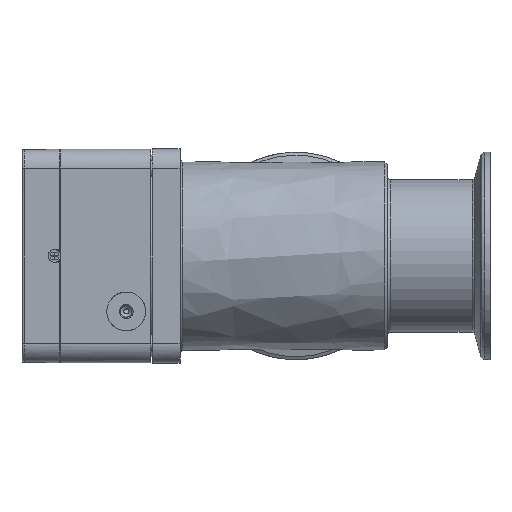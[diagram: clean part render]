
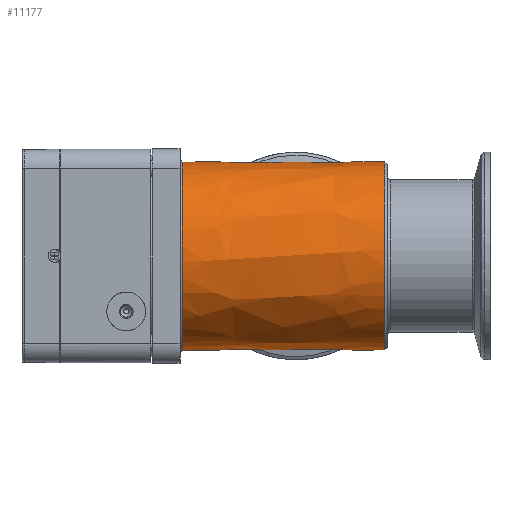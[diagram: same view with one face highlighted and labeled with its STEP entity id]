
A CAD part, left-side view. The second image highlights one B-rep face of the part: STEP entity #11177.
In plain terms, the highlighted free-form (B-spline) face has degree [2, 1] with [7, 2] control points.
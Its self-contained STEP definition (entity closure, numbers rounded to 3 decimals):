
#10488=CARTESIAN_POINT('V33',(38.,33.95,
   0.0));
#10489=VERTEX_POINT('V33',#10488);
#10497=CARTESIAN_POINT('E57',(38.,33.95,
   0.));
#10498=CARTESIAN_POINT('E57',(38.,33.95,
   58.803));
#10499=CARTESIAN_POINT('E57',(38.,-16.975,
   29.402));
#10500=CARTESIAN_POINT('E57',(38.,-67.9,
   0.));
#10501=CARTESIAN_POINT('E57',(38.,-16.975,
   -29.402));
#10502=CARTESIAN_POINT('E57',(38.,33.95,
   -58.803));
#10503=CARTESIAN_POINT('E57',(38.,33.95,
   0.));
#10511=(BOUNDED_CURVE()B_SPLINE_CURVE(2,(#10497,#10498,#10499,
   #10500,#10501,#10502,#10503),.CIRCULAR_ARC.,.T.,.U.)
   B_SPLINE_CURVE_WITH_KNOTS((3,2,2,3),(2.0,50.798,
   99.595,148.393),.UNSPECIFIED.)CURVE()
   GEOMETRIC_REPRESENTATION_ITEM()RATIONAL_B_SPLINE_CURVE((1.0,
   0.5,1.0,0.5,1.0,0.5,1.0)
   )REPRESENTATION_ITEM('E57'));
#10512=EDGE_CURVE('E57',#10489,#10489,#10511,.T.);
#11049=CARTESIAN_POINT('V18',(111.025,33.95,
   0.0));
#11050=VERTEX_POINT('V18',#11049);
#11058=CARTESIAN_POINT('E28',(111.025,33.95,
   0.0));
#11059=CARTESIAN_POINT('E28',(111.025,33.95,
   -58.803));
#11060=CARTESIAN_POINT('E28',(111.025,
   -16.975,-29.402));
#11061=CARTESIAN_POINT('E28',(111.025,
   -67.9,0.));
#11062=CARTESIAN_POINT('E28',(111.025,
   -16.975,29.402));
#11063=CARTESIAN_POINT('E28',(111.025,33.95,
   58.803));
#11064=CARTESIAN_POINT('E28',(111.025,33.95,
   0.0));
#11072=(BOUNDED_CURVE()B_SPLINE_CURVE(2,(#11058,#11059,#11060,
   #11061,#11062,#11063,#11064),.CIRCULAR_ARC.,.T.,.U.)
   B_SPLINE_CURVE_WITH_KNOTS((3,2,2,3),(0.0,108.528,
   217.056,325.585),.UNSPECIFIED.)CURVE()
   GEOMETRIC_REPRESENTATION_ITEM()RATIONAL_B_SPLINE_CURVE((1.0,
   0.5,1.0,0.5,1.0,0.5,1.0)
   )REPRESENTATION_ITEM('E28'));
#11073=EDGE_CURVE('E28',#11050,#11050,#11072,.T.);
#11078=CARTESIAN_POINT('F26',(37.,33.95,
   0.0));
#11079=CARTESIAN_POINT('F26',(37.,33.95,
   58.803));
#11080=CARTESIAN_POINT('F26',(37.,-16.975,
   29.402));
#11081=CARTESIAN_POINT('F26',(37.,-67.9,
   0.));
#11082=CARTESIAN_POINT('F26',(37.,-16.975,
   -29.402));
#11083=CARTESIAN_POINT('F26',(37.,33.95,
   -58.803));
#11084=CARTESIAN_POINT('F26',(37.,33.95,
   0.0));
#11085=CARTESIAN_POINT('F26',(111.025,33.95,
   0.0));
#11086=CARTESIAN_POINT('F26',(111.025,33.95,
   58.803));
#11087=CARTESIAN_POINT('F26',(111.025,
   -16.975,29.402));
#11088=CARTESIAN_POINT('F26',(111.025,
   -67.9,0.));
#11089=CARTESIAN_POINT('F26',(111.025,
   -16.975,-29.402));
#11090=CARTESIAN_POINT('F26',(111.025,33.95,
   -58.803));
#11091=CARTESIAN_POINT('F26',(111.025,33.95,
   0.0));
#11099=(BOUNDED_SURFACE()B_SPLINE_SURFACE(2,1,((#11078,#11085),(
   #11079,#11086),(#11080,#11087),(#11081,#11088),(#11082,
   #11089),(#11083,#11090),(#11084,#11091)),.CYLINDRICAL_SURF.,
   .T.,.F.,.U.)B_SPLINE_SURFACE_WITH_KNOTS((3,2,2,3),(2,2),(0.0,
   1.589,3.177,4.766),(0.0,1.0),
   .UNSPECIFIED.)GEOMETRIC_REPRESENTATION_ITEM()
   RATIONAL_B_SPLINE_SURFACE(((1.0,1.0),(0.5,
   0.5),(1.0,1.0),(0.5,
   0.5),(1.0,1.0),(0.5,
   0.5),(1.0,1.0)))REPRESENTATION_ITEM('F26')SURFACE(
   ));
#11100=ORIENTED_EDGE('E57',*,*,#10512,.F.);
#11101=CARTESIAN_POINT('V31',(45.,33.95,
   0.0));
#11102=VERTEX_POINT('V31',#11101);
#11103=CARTESIAN_POINT('E50',(45.,33.95,
   0.0));
#11104=CARTESIAN_POINT('E50',(38.,33.95,
   0.0));
#11105=B_SPLINE_CURVE_WITH_KNOTS('E50',1,(#11103,#11104),
   .POLYLINE_FORM.,.F.,.U.,(2,2),(0.892,
   0.986),.UNSPECIFIED.);
#11106=EDGE_CURVE('E50',#11102,#10489,#11105,.T.);
#11107=ORIENTED_EDGE('E50',*,*,#11106,.F.);
#11108=CARTESIAN_POINT('V30',(70.,22.97,
   25.));
#11109=VERTEX_POINT('V30',#11108);
#11110=CARTESIAN_POINT('E49',(70.,22.97,
   25.));
#11111=CARTESIAN_POINT('E49',(69.194,22.97,
   25.));
#11112=CARTESIAN_POINT('E49',(68.392,23.012,
   24.961));
#11113=CARTESIAN_POINT('E49',(64.529,23.415,
   24.588));
#11114=CARTESIAN_POINT('E49',(61.719,24.315,
   23.745));
#11115=CARTESIAN_POINT('E49',(55.728,26.853,
   20.895));
#11116=CARTESIAN_POINT('E49',(52.376,28.886,
   18.277));
#11117=CARTESIAN_POINT('E49',(47.986,31.787,
   12.232));
#11118=CARTESIAN_POINT('E49',(46.451,32.891,
   9.169));
#11119=CARTESIAN_POINT('E49',(45.213,33.792,
   3.752));
#11120=CARTESIAN_POINT('E49',(45.,33.95,
   1.886));
#11121=CARTESIAN_POINT('E49',(45.,33.95,
   0.0));
#11122=B_SPLINE_CURVE_WITH_KNOTS('E49',3,(#11110,#11111,#11112,
   #11113,#11114,#11115,#11116,#11117,#11118,#11119,#11120,#11121),
   .UNSPECIFIED.,.F.,.U.,(4,2,2,2,2,4),(0.0,0.062,
   0.301,0.645,0.881,1.0),
   .UNSPECIFIED.);
#11123=EDGE_CURVE('E49',#11109,#11102,#11122,.T.);
#11124=ORIENTED_EDGE('E49',*,*,#11123,.F.);
#11125=CARTESIAN_POINT('V32',(95.,33.95,
   0.0));
#11126=VERTEX_POINT('V32',#11125);
#11127=CARTESIAN_POINT('E53',(95.,33.95,
   0.0));
#11128=CARTESIAN_POINT('E53',(95.,33.95,
   1.622));
#11129=CARTESIAN_POINT('E53',(94.842,33.833,
   3.23));
#11130=CARTESIAN_POINT('E53',(93.819,33.086,
   8.457));
#11131=CARTESIAN_POINT('E53',(92.366,32.035,
   11.572));
#11132=CARTESIAN_POINT('E53',(88.345,29.346,
   17.476));
#11133=CARTESIAN_POINT('E53',(85.368,27.496,
   20.048));
#11134=CARTESIAN_POINT('E53',(79.872,24.916,
   23.124));
#11135=CARTESIAN_POINT('E53',(77.277,23.941,
   24.082));
#11136=CARTESIAN_POINT('E53',(73.032,23.123,
   24.861));
#11137=CARTESIAN_POINT('E53',(71.528,22.97,
   25.));
#11138=CARTESIAN_POINT('E53',(70.,22.97,
   25.));
#11139=B_SPLINE_CURVE_WITH_KNOTS('E53',3,(#11127,#11128,#11129,
   #11130,#11131,#11132,#11133,#11134,#11135,#11136,#11137,#11138),
   .UNSPECIFIED.,.F.,.U.,(4,2,2,2,2,4),(0.0,0.099,
   0.33,0.643,0.876,1.0),
   .UNSPECIFIED.);
#11140=EDGE_CURVE('E53',#11126,#11109,#11139,.T.);
#11141=ORIENTED_EDGE('E53',*,*,#11140,.F.);
#11142=CARTESIAN_POINT('E52',(111.025,33.95,
   0.0));
#11143=CARTESIAN_POINT('E52',(95.,33.95,
   0.0));
#11144=B_SPLINE_CURVE_WITH_KNOTS('E52',1,(#11142,#11143),
   .POLYLINE_FORM.,.F.,.U.,(2,2),(0.0,0.216),
   .UNSPECIFIED.);
#11145=EDGE_CURVE('E52',#11050,#11126,#11144,.T.);
#11146=ORIENTED_EDGE('E52',*,*,#11145,.F.);
#11147=ORIENTED_EDGE('F15',*,*,#11073,.F.);
#11148=ORIENTED_EDGE('E52',*,*,#11145,.T.);
#11149=CARTESIAN_POINT('E51',(45.,33.95,
   0.0));
#11150=CARTESIAN_POINT('E51',(45.,33.95,
   -2.391));
#11151=CARTESIAN_POINT('E51',(45.342,33.696,
   -4.743));
#11152=CARTESIAN_POINT('E51',(46.468,32.882,
   -8.605));
#11153=CARTESIAN_POINT('E51',(47.088,32.438,
   -10.134));
#11154=CARTESIAN_POINT('E51',(49.802,30.554,
   -15.33));
#11155=CARTESIAN_POINT('E51',(52.539,28.745,
   -18.255));
#11156=CARTESIAN_POINT('E51',(58.41,25.609,
   -22.439));
#11157=CARTESIAN_POINT('E51',(61.776,24.142,
   -23.89));
#11158=CARTESIAN_POINT('E51',(66.996,23.11,
   -24.874));
#11159=CARTESIAN_POINT('E51',(68.653,22.947,
   -25.021));
#11160=CARTESIAN_POINT('E51',(71.941,22.996,
   -24.976));
#11161=CARTESIAN_POINT('E51',(73.509,23.188,
   -24.802));
#11162=CARTESIAN_POINT('E51',(77.872,24.123,
   -23.903));
#11163=CARTESIAN_POINT('E51',(80.535,25.184,
   -22.844));
#11164=CARTESIAN_POINT('E51',(85.904,27.818,
   -19.599));
#11165=CARTESIAN_POINT('E51',(88.695,29.572,
   -17.062));
#11166=CARTESIAN_POINT('E51',(92.37,32.043,
   -11.49));
#11167=CARTESIAN_POINT('E51',(93.647,32.963,
   -8.741));
#11168=CARTESIAN_POINT('E51',(94.787,33.792,
   -3.752));
#11169=CARTESIAN_POINT('E51',(95.,33.95,
   -1.886));
#11170=CARTESIAN_POINT('E51',(95.,33.95,
   0.0));
#11171=B_SPLINE_CURVE_WITH_KNOTS('E51',3,(#11149,#11150,#11151,
   #11152,#11153,#11154,#11155,#11156,#11157,#11158,#11159,#11160,
   #11161,#11162,#11163,#11164,#11165,#11166,#11167,#11168,#11169,
   #11170),.UNSPECIFIED.,.F.,.U.,(4,2,2,2,2,2,2,2,2,2,4),(0.0,
   0.082,0.14,0.292,
   0.442,0.51,0.574,
   0.693,0.84,0.942,1.0),
   .UNSPECIFIED.);
#11172=EDGE_CURVE('E51',#11102,#11126,#11171,.T.);
#11173=ORIENTED_EDGE('E51',*,*,#11172,.F.);
#11174=ORIENTED_EDGE('E50',*,*,#11106,.T.);
#11175=EDGE_LOOP('F26',(#11100,#11107,#11124,#11141,#11146,#11147,
   #11148,#11173,#11174));
#11176=FACE_OUTER_BOUND('F26',#11175,.F.);
#11177=ADVANCED_FACE('F26',(#11176),#11099,.T.);
